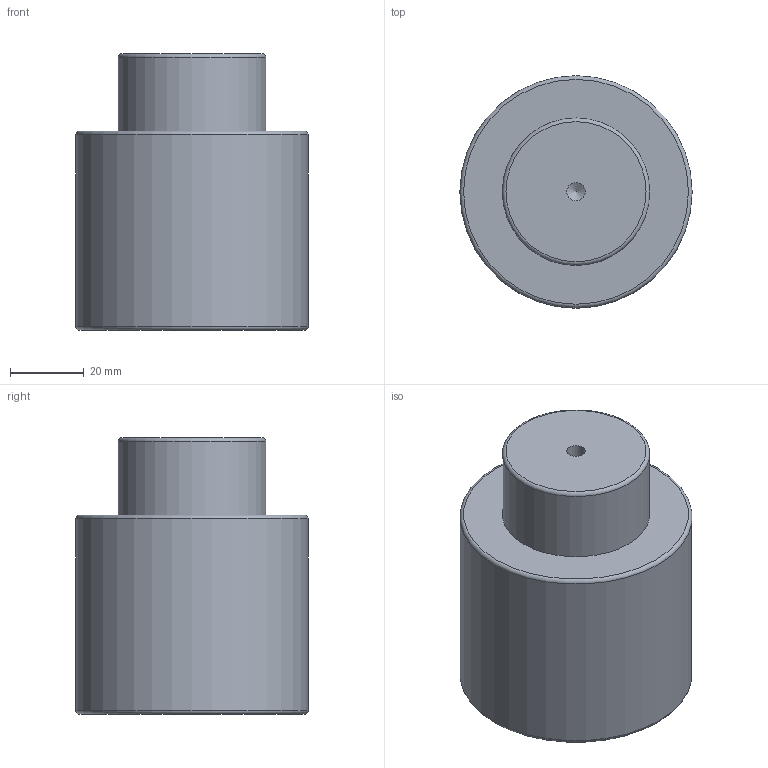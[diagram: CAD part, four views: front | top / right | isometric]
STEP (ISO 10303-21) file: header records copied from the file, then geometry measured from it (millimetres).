
FILE_DESCRIPTION(/* description */ (''),/* implementation_level */ '2;1');
FILE_NAME(/* name */ 'NV5-SMLX.63x20.stp',/* time_stamp */ '2018-08-31T16:08:31+02:00',/* author */ (''),/* organization */ (''),/* preprocessor_version */ 'ST-DEVELOPER v16',/* originating_system */ 'SIEMENS PLM Software NX 10.0',/* authorisation */ '');
FILE_SCHEMA (('AUTOMOTIVE_DESIGN { 1 0 10303 214 3 1 1 1 }'));
Length unit declared in the file: millimetre
Products named in the file (1): NV5-SMLX.63x20
Bounding box: 63 x 63 x 75 mm (x, y, z)
Volume: 193200.6 mm3; surface area: 20055.5 mm2
Topology: 1 solids, 1 shells, 12 faces, 24 edges, 15 vertices
Faces by surface type: cylinder 4, torus 3, plane 3, cone 2
Full cylindrical faces by diameter (mm): 5 x1, 8.5 x1, 40 x1, 63 x1
Entity records: 266 total; most frequent: DIRECTION 48, CARTESIAN_POINT 37, FACE_BOUND 24, AXIS2_PLACEMENT_3D 24, EDGE_LOOP 22, ORIENTED_EDGE 22, VERTEX_POINT 13, ADVANCED_FACE 12
